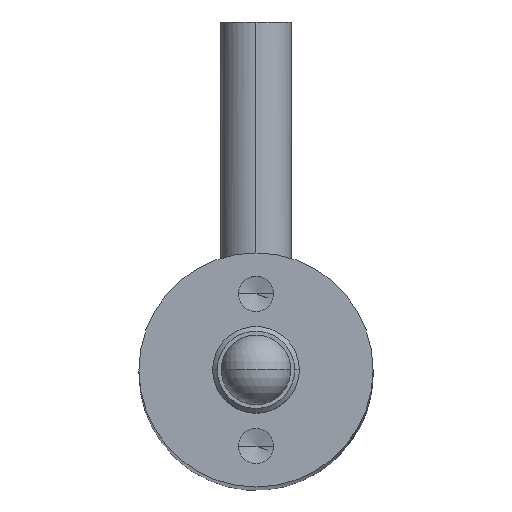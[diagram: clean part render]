
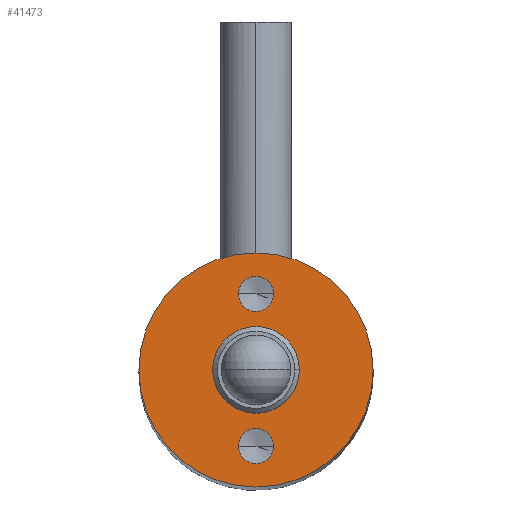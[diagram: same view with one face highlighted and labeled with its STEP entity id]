
A CAD part, top view. The second image highlights one B-rep face of the part: STEP entity #41473.
In plain terms, the highlighted planar face has unit normal (0, 0, 1).
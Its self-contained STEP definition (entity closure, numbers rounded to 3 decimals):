
#142 = AXIS2_PLACEMENT_3D ( 'NONE', #41111, #21982, #5446 ) ;
#2817 = ORIENTED_EDGE ( 'NONE', *, *, #12989, .F. ) ;
#3211 = EDGE_CURVE ( 'NONE', #7807, #11008, #23898, .T. ) ;
#3382 = DIRECTION ( 'NONE',  ( 1., 0., 0. ) ) ;
#3851 = ORIENTED_EDGE ( 'NONE', *, *, #3211, .F. ) ;
#3882 = CARTESIAN_POINT ( 'NONE',  ( -1.85, 0., 82.5 ) ) ;
#4421 = FACE_BOUND ( 'NONE', #4693, .T. ) ;
#4693 = EDGE_LOOP ( 'NONE', ( #3851, #15266 ) ) ;
#5396 = CARTESIAN_POINT ( 'NONE',  ( 1.85, 0., 82.5 ) ) ;
#5405 = AXIS2_PLACEMENT_3D ( 'NONE', #8763, #34081, #14746 ) ;
#5446 = DIRECTION ( 'NONE',  ( 1., 0., 0. ) ) ;
#5707 = CARTESIAN_POINT ( 'NONE',  ( 0., 0., 82.5 ) ) ;
#5913 = VERTEX_POINT ( 'NONE', #21187 ) ;
#6503 = DIRECTION ( 'NONE',  ( 1., 0., 0. ) ) ;
#7246 = EDGE_CURVE ( 'NONE', #5913, #22398, #17827, .T. ) ;
#7807 = VERTEX_POINT ( 'NONE', #34942 ) ;
#7942 = FACE_BOUND ( 'NONE', #14256, .T. ) ;
#8525 = DIRECTION ( 'NONE',  ( 1., 0., 0. ) ) ;
#8567 = EDGE_CURVE ( 'NONE', #22398, #5913, #40340, .T. ) ;
#8579 = CARTESIAN_POINT ( 'NONE',  ( 0.75, -3.25, 82.5 ) ) ;
#8763 = CARTESIAN_POINT ( 'NONE',  ( 0., 3.25, 82.5 ) ) ;
#9064 = DIRECTION ( 'NONE',  ( 1., 0., 0. ) ) ;
#9144 = CIRCLE ( 'NONE', #24712, 5. ) ;
#9375 = DIRECTION ( 'NONE',  ( 1., 0., 0. ) ) ;
#10918 = DIRECTION ( 'NONE',  ( 1., 0., 0. ) ) ;
#11008 = VERTEX_POINT ( 'NONE', #25906 ) ;
#11774 = ORIENTED_EDGE ( 'NONE', *, *, #32001, .T. ) ;
#12710 = AXIS2_PLACEMENT_3D ( 'NONE', #32530, #13346, #15899 ) ;
#12989 = EDGE_CURVE ( 'NONE', #33902, #34818, #24779, .T. ) ;
#13213 = VERTEX_POINT ( 'NONE', #18289 ) ;
#13346 = DIRECTION ( 'NONE',  ( 0., 0., 1. ) ) ;
#14025 = CIRCLE ( 'NONE', #33350, 1.85 ) ;
#14256 = EDGE_LOOP ( 'NONE', ( #28571, #2817 ) ) ;
#14746 = DIRECTION ( 'NONE',  ( 1., 0., 0. ) ) ;
#15089 = VERTEX_POINT ( 'NONE', #27137 ) ;
#15266 = ORIENTED_EDGE ( 'NONE', *, *, #25788, .F. ) ;
#15899 = DIRECTION ( 'NONE',  ( 1., 0., 0. ) ) ;
#15997 = PLANE ( 'NONE',  #24404 ) ;
#17827 = CIRCLE ( 'NONE', #142, 0.75 ) ;
#18289 = CARTESIAN_POINT ( 'NONE',  ( 5., 0., 82.5 ) ) ;
#18889 = AXIS2_PLACEMENT_3D ( 'NONE', #40000, #30080, #10918 ) ;
#21187 = CARTESIAN_POINT ( 'NONE',  ( -0.75, -3.25, 82.5 ) ) ;
#21982 = DIRECTION ( 'NONE',  ( 0., 0., 1. ) ) ;
#22398 = VERTEX_POINT ( 'NONE', #8579 ) ;
#23243 = AXIS2_PLACEMENT_3D ( 'NONE', #27796, #25146, #9064 ) ;
#23661 = CIRCLE ( 'NONE', #5405, 0.75 ) ;
#23898 = CIRCLE ( 'NONE', #18889, 0.75 ) ;
#24404 = AXIS2_PLACEMENT_3D ( 'NONE', #32209, #41432, #3382 ) ;
#24481 = EDGE_CURVE ( 'NONE', #13213, #15089, #9144, .T. ) ;
#24712 = AXIS2_PLACEMENT_3D ( 'NONE', #5707, #31046, #8525 ) ;
#24779 = CIRCLE ( 'NONE', #23243, 1.85 ) ;
#25146 = DIRECTION ( 'NONE',  ( 0., 0., 1. ) ) ;
#25788 = EDGE_CURVE ( 'NONE', #11008, #7807, #23661, .T. ) ;
#25906 = CARTESIAN_POINT ( 'NONE',  ( -0.75, 3.25, 82.5 ) ) ;
#27137 = CARTESIAN_POINT ( 'NONE',  ( -5., 0., 82.5 ) ) ;
#27796 = CARTESIAN_POINT ( 'NONE',  ( 0., 0., 82.5 ) ) ;
#27966 = FACE_OUTER_BOUND ( 'NONE', #28908, .T. ) ;
#28528 = ORIENTED_EDGE ( 'NONE', *, *, #8567, .F. ) ;
#28571 = ORIENTED_EDGE ( 'NONE', *, *, #34227, .F. ) ;
#28731 = CARTESIAN_POINT ( 'NONE',  ( 0., 0., 82.5 ) ) ;
#28908 = EDGE_LOOP ( 'NONE', ( #11774, #39645 ) ) ;
#29130 = AXIS2_PLACEMENT_3D ( 'NONE', #41243, #31764, #9375 ) ;
#30080 = DIRECTION ( 'NONE',  ( 0., 0., 1. ) ) ;
#31046 = DIRECTION ( 'NONE',  ( 0., 0., 1. ) ) ;
#31764 = DIRECTION ( 'NONE',  ( 0., 0., 1. ) ) ;
#32001 = EDGE_CURVE ( 'NONE', #15089, #13213, #37062, .T. ) ;
#32209 = CARTESIAN_POINT ( 'NONE',  ( 0., 0., 82.5 ) ) ;
#32530 = CARTESIAN_POINT ( 'NONE',  ( 0., 0., 82.5 ) ) ;
#33350 = AXIS2_PLACEMENT_3D ( 'NONE', #28731, #34768, #6503 ) ;
#33902 = VERTEX_POINT ( 'NONE', #5396 ) ;
#34081 = DIRECTION ( 'NONE',  ( 0., 0., 1. ) ) ;
#34227 = EDGE_CURVE ( 'NONE', #34818, #33902, #14025, .T. ) ;
#34768 = DIRECTION ( 'NONE',  ( 0., 0., 1. ) ) ;
#34818 = VERTEX_POINT ( 'NONE', #3882 ) ;
#34942 = CARTESIAN_POINT ( 'NONE',  ( 0.75, 3.25, 82.5 ) ) ;
#36463 = FACE_BOUND ( 'NONE', #37830, .T. ) ;
#37062 = CIRCLE ( 'NONE', #12710, 5. ) ;
#37830 = EDGE_LOOP ( 'NONE', ( #28528, #39866 ) ) ;
#39645 = ORIENTED_EDGE ( 'NONE', *, *, #24481, .T. ) ;
#39866 = ORIENTED_EDGE ( 'NONE', *, *, #7246, .F. ) ;
#40000 = CARTESIAN_POINT ( 'NONE',  ( 0., 3.25, 82.5 ) ) ;
#40340 = CIRCLE ( 'NONE', #29130, 0.75 ) ;
#41111 = CARTESIAN_POINT ( 'NONE',  ( 0., -3.25, 82.5 ) ) ;
#41243 = CARTESIAN_POINT ( 'NONE',  ( 0., -3.25, 82.5 ) ) ;
#41432 = DIRECTION ( 'NONE',  ( 0., 0., 1. ) ) ;
#41473 = ADVANCED_FACE ( 'NONE', ( #36463, #4421, #7942, #27966 ), #15997, .T. ) ;
